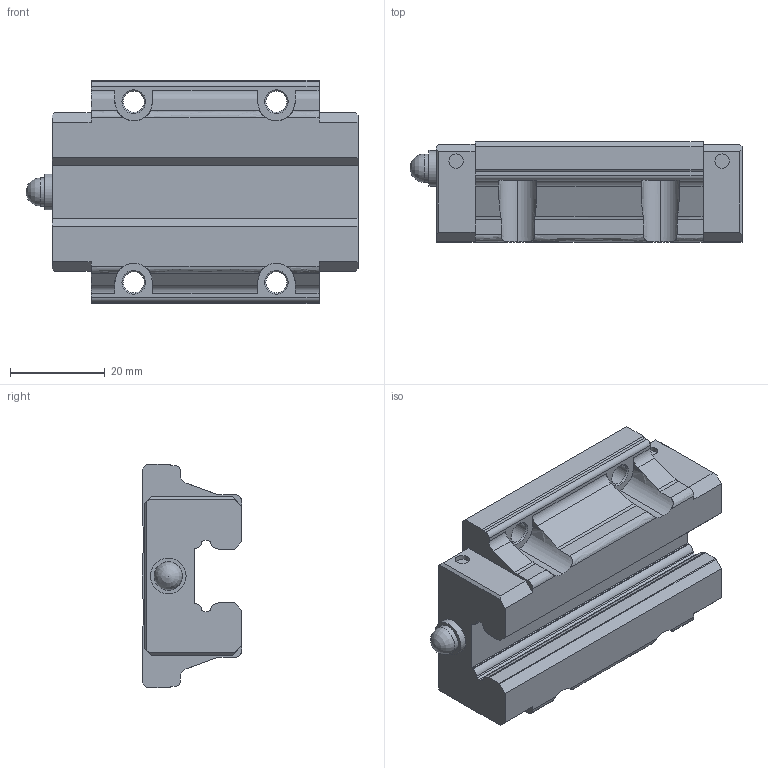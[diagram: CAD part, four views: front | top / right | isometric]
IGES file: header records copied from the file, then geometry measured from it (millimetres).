
Start section: Data from Parasolid IGES Translator 26.0.171, Copyright(c) 2006 Siemens PLM Software. All Rights Reserved.
Global section: file name: SHS15C1SS(GK) BLOCK(PB1021B1).igs; native system: By Siemens PLM Incorporated; preprocessor: XPlus GENERIC/IGES 26.0.171; author: Noname; organization: Noname; date: 20240514.033607; units: millimetre
Bounding box: 69.9 x 21 x 47 mm (x, y, z)
Surface area: 11548.4 mm2 (no closed solid volume)
Topology: 0 solids, 0 shells, 154 faces, 849 edges, 815 vertices
Faces by surface type: extrusion 87, revolution 67
